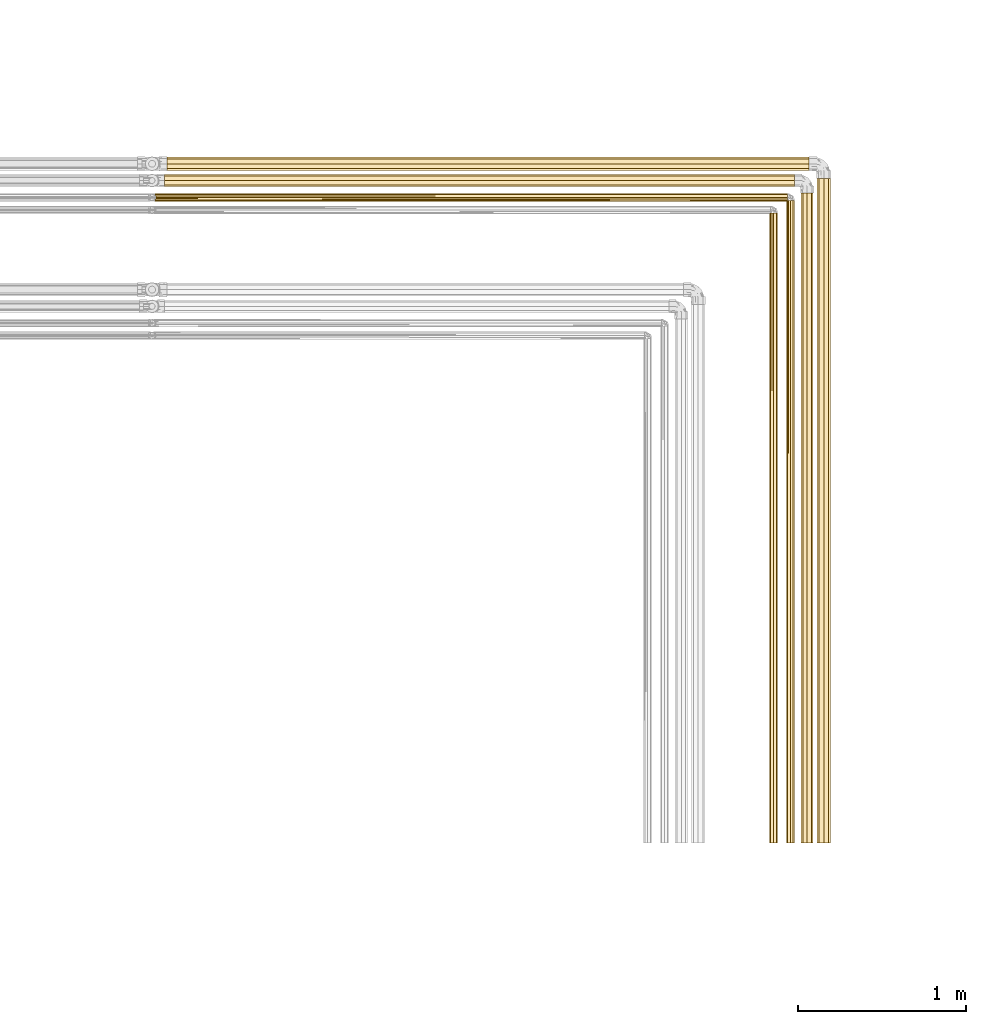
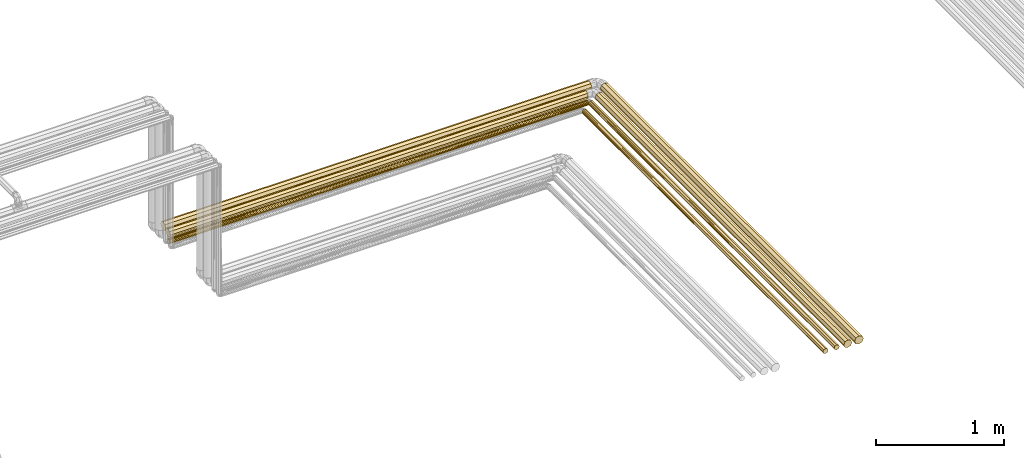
# One storey, part 108 of 652: 7 coverings.
"""IFC2X3 building model written with IfcOpenShell, lengths in millimetres."""

from ifc_helpers import new_model, entity, si_unit, converted_unit, direction, frame, origin, place, context, subcontext, project, spatial, faceted_brep, material, type_object, element, save


model = new_model("IFC2X3")

# Units and contexts
model_context = context("Model", 3, precision=0.01, world=frame((0.0, 0.0, 308426.39999999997)), true_north=direction((6.123233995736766e-17, 1.0)))
plan_context = context("Plan", 3, precision=0.01, world=frame((0.0, 0.0, 308426.39999999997)), true_north=direction((6.123233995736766e-17, 1.0)))
body_context = subcontext(model_context, "Body", "Model", "MODEL_VIEW")
ifc_project = project(units=[si_unit("LENGTHUNIT", "METRE", prefix="MILLI"), si_unit("AREAUNIT", "SQUARE_METRE"), si_unit("VOLUMEUNIT", "CUBIC_METRE"), converted_unit("PLANEANGLEUNIT", "DEGREE", entity("IfcPlaneAngleMeasure", 0.017453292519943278), si_unit("PLANEANGLEUNIT", "RADIAN"), dimensions=[0, 0, 0, 0, 0, 0, 0])], contexts=[model_context, plan_context])

# Site, building, storey
site_placement = place(None, origin())
site = spatial("IfcSite", under=ifc_project, at=site_placement, Name="Default", CompositionType="ELEMENT")
building_placement = place(site_placement, origin())
building = spatial("IfcBuilding", under=site, at=building_placement, CompositionType="ELEMENT")
storey_placement = place(building_placement, frame((0.0, 0.0, 1730.6999999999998)))
storey = spatial("IfcBuildingStorey", under=building, at=storey_placement, Name="EG_Produktion_FFB", CompositionType="ELEMENT", Elevation=1730.6999999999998)

# Coverings
ifc_material = material(Name="Dämmung - Armaflex-Schlauch")
covering_type = type_object("IfcCoveringType", Name="Rohrdämmung außen:Armaflex-Schlauch", PredefinedType="INSULATION")
covering_1_placement = place(storey_placement, frame((73366.94222776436, 37576.577886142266, 2526.8951524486)))
element("IfcCovering", 1, at=covering_1_placement, inside=storey, type_object=covering_type, material=ifc_material, Name="Rohrdämmung außen:Armaflex-Schlauch", ObjectType="Rohrdämmung außen:Armaflex-Schlauch", PredefinedType="INSULATION", context=body_context, shape_type="Brep", body=[
    faceted_brep([(38.05777223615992, 3874.3363135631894, 1.595272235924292), (33.06890100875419, 3874.3363135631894, 3.6617303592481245), (25.166331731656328, 3874.3363135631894, 6.935081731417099), (18.72061147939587, 3874.3363135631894, 9.604986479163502), (12.274891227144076, 3874.3363135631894, 12.274891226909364), (9.604986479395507, 3874.3363135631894, 18.720611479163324), (6.9350817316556, 3874.3363135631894, 25.166331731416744), (4.265176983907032, 3874.3363135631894, 31.612051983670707), (1.595272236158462, 3874.3363135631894, 38.057772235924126), (3.6617303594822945, 3874.3363135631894, 43.04664346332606), (6.9350817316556, 3874.3363135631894, 50.949212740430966), (9.60498647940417, 3874.3363135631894, 57.39493299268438), (12.274891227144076, 3874.3363135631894, 63.840653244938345), (18.72061147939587, 3874.3363135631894, 66.5105579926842), (25.166331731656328, 3874.3363135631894, 69.18046274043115), (33.06890100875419, 3874.3363135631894, 72.45381411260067), (38.05777223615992, 3874.3363135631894, 74.52027223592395), (44.503492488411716, 3874.3363135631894, 71.85036748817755), (50.949212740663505, 3874.3363135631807, 69.18046274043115), (57.39493299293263, 3874.3363135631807, 66.51055799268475), (63.84065324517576, 3874.3363135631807, 63.840653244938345), (66.51055799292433, 3874.3363135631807, 57.39493299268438), (69.18046274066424, 3874.3363135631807, 50.949212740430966), (72.45381411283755, 3874.3363135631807, 43.04664346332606), (74.52027223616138, 3874.3363135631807, 38.057772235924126), (71.8503674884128, 3874.3363135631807, 31.612051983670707), (69.18046274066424, 3874.3363135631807, 25.166331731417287), (66.51055799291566, 3874.3363135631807, 18.720611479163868), (63.84065324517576, 3874.3363135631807, 12.274891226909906), (57.39493299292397, 3874.3363135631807, 9.604986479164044), (50.949212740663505, 3874.3363135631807, 6.935081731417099), (44.503492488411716, 3874.3363135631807, 4.265176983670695), (38.057772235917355, 0.0, 1.595272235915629), (48.03551469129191, 0.0, 5.728188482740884), (55.938083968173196, 0.0, 9.00153985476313), (63.8406532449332, 0.0, 12.274891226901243), (66.51055799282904, 0.0, 18.720611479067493), (69.1804627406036, 0.0, 25.166331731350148), (71.85036748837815, 0.0, 31.612051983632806), (74.52027223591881, 0.0, 38.05777223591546), (70.38735598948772, 0.0, 48.03551469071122), (67.11400461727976, 0.0, 55.93808396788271), (63.8406532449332, 0.0, 63.840653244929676), (55.93808396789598, 0.0, 67.11400461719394), (48.03551469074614, 0.0, 70.38735598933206), (38.057772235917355, 0.0, 74.5202722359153), (31.612051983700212, 0.0, 71.85036748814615), (25.166331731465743, 0.0, 69.18046274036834), (18.7206114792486, 0.0, 66.51055799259), (12.274891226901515, 0.0, 63.840653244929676), (9.604986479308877, 0.0, 57.394932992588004), (6.935081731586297, 0.0, 50.949212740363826), (4.265176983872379, 0.0, 44.50349248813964), (1.5952722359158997, 0.0, 38.05777223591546), (5.728188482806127, 0.0, 28.080029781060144), (9.001539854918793, 0.0, 20.177460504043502), (12.274891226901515, 0.0, 12.274891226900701), (18.7206114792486, 0.0, 9.604986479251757), (25.16633173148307, 0.0, 6.935081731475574), (31.612051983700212, 0.0, 4.265176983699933), (74.52027223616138, 1686.7498690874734, 38.05777223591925)], [[[0, 1, 2, 3, 4, 5, 6, 7, 8, 9, 10, 11, 12, 13, 14, 15, 16, 17, 18, 19, 20, 21, 22, 23, 24, 25, 26, 27, 28, 29, 30, 31]], [[32, 33, 34, 35, 36, 37, 38, 39, 40, 41, 42, 43, 44, 45, 46, 47, 48, 49, 50, 51, 52, 53, 54, 55, 56, 57, 58, 59]], [[37, 36, 35, 28, 27, 26, 25, 24, 60, 39, 38]], [[33, 32, 0, 31, 30, 29, 28, 35, 34]], [[58, 57, 56, 4, 3, 2, 1, 0, 32, 59]], [[4, 56, 55, 54, 53, 8, 7, 6, 5]], [[51, 50, 49, 12, 11, 10, 9, 8, 53, 52]], [[12, 49, 48, 47, 46, 45, 16, 15, 14, 13]], [[44, 43, 42, 20, 19, 18, 17, 16, 45]], [[20, 42, 41, 40, 39, 60, 24, 23, 22, 21]]]),
])
covering_2_placement = place(storey_placement, frame((69574.08425000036, 41486.94067746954, 2526.895152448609)))
element("IfcCovering", 2, at=covering_2_placement, inside=storey, type_object=covering_type, material=ifc_material, Name="Rohrdämmung außen:Armaflex-Schlauch", ObjectType="Rohrdämmung außen:Armaflex-Schlauch", PredefinedType="INSULATION", context=body_context, shape_type="Brep", body=[
    faceted_brep([(3756.831500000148, 74.52027223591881, 38.057772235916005), (3756.831500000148, 72.38918018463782, 43.20268356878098), (3756.831500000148, 69.18046274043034, 50.949212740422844), (3756.831500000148, 66.51055799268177, 57.39493299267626), (3756.831500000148, 63.8406532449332, 63.84065324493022), (3756.831500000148, 57.394932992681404, 66.51055799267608), (3756.831500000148, 50.94921274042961, 69.18046274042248), (3756.831500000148, 44.50349248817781, 71.85036748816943), (3756.831500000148, 38.057772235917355, 74.52027223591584), (3756.831500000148, 32.91286090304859, 72.38918018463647), (3756.831500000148, 25.166331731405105, 69.18046274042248), (3756.831500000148, 18.72061147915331, 66.51055799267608), (3756.831500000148, 12.274891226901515, 63.84065324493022), (3756.831500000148, 9.604986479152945, 57.39493299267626), (3756.831500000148, 6.935081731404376, 50.949212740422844), (3756.831500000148, 4.265176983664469, 44.50349248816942), (3756.831500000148, 1.5952722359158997, 38.057772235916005), (3756.831500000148, 4.265176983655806, 31.612051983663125), (3756.831500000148, 6.935081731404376, 25.166331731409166), (3756.831500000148, 9.604986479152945, 18.720611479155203), (3756.831500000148, 12.274891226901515, 12.274891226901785), (3756.831500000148, 18.72061147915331, 9.604986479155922), (3756.831500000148, 25.166331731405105, 6.935081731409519), (3756.831500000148, 31.612051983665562, 4.265176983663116), (3756.831500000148, 38.057772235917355, 1.5952722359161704), (3756.831500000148, 43.20268356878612, 3.7263642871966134), (3756.831500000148, 50.94921274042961, 6.935081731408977), (3756.831500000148, 57.394932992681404, 9.604986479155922), (3756.831500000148, 63.8406532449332, 12.274891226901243), (3756.831500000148, 66.51055799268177, 18.720611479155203), (3756.831500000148, 69.18046274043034, 25.166331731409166), (3756.831500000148, 71.85036748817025, 31.61205198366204), (0.0, 57.394932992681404, 9.604986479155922), (0.0, 50.94921274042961, 6.935081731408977), (0.0, 44.50349248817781, 4.265176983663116), (0.0, 38.057772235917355, 1.5952722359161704), (0.0, 27.76794956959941, 5.857456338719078), (0.0, 20.021420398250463, 9.066173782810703), (0.0, 12.274891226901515, 12.274891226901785), (0.0, 9.604986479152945, 18.720611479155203), (0.0, 6.935081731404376, 25.166331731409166), (0.0, 4.265176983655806, 31.612051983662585), (0.0, 1.5952722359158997, 38.057772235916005), (0.0, 5.857456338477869, 48.3475949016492), (0.0, 9.066173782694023, 56.09412407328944), (0.0, 12.274891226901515, 63.84065324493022), (0.0, 18.72061147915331, 66.51055799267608), (0.0, 25.166331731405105, 69.18046274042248), (0.0, 31.612051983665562, 71.85036748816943), (0.0, 38.057772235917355, 74.52027223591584), (0.0, 48.34759490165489, 70.25808813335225), (0.0, 56.094124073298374, 67.04937068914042), (0.0, 63.8406532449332, 63.84065324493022), (0.0, 66.51055799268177, 57.39493299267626), (0.0, 69.18046274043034, 50.949212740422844), (0.0, 71.85036748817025, 44.50349248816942), (0.0, 74.52027223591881, 38.057772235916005), (0.0, 70.25808813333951, 27.767949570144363), (0.0, 67.04937068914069, 20.021420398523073), (0.0, 63.8406532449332, 12.274891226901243)], [[[0, 1, 2, 3, 4, 5, 6, 7, 8, 9, 10, 11, 12, 13, 14, 15, 16, 17, 18, 19, 20, 21, 22, 23, 24, 25, 26, 27, 28, 29, 30, 31]], [[32, 33, 34, 35, 36, 37, 38, 39, 40, 41, 42, 43, 44, 45, 46, 47, 48, 49, 50, 51, 52, 53, 54, 55, 56, 57, 58, 59]], [[40, 39, 38, 20, 19, 18, 17, 16, 42, 41]], [[36, 35, 24, 23, 22, 21, 20, 38, 37]], [[33, 32, 59, 28, 27, 26, 25, 24, 35, 34]], [[28, 59, 58, 57, 56, 0, 31, 30, 29]], [[54, 53, 52, 4, 3, 2, 1, 0, 56, 55]], [[4, 52, 51, 50, 49, 8, 7, 6, 5]], [[47, 46, 45, 12, 11, 10, 9, 8, 49, 48]], [[12, 45, 44, 43, 42, 16, 15, 14, 13]]]),
])
covering_3_placement = place(storey_placement, frame((73463.76722776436, 37576.577886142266, 2523.7201524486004)))
element("IfcCovering", 3, at=covering_3_placement, inside=storey, type_object=covering_type, material=ifc_material, Name="Rohrdämmung außen:Armaflex-Schlauch", ObjectType="Rohrdämmung außen:Armaflex-Schlauch", PredefinedType="INSULATION", context=body_context, shape_type="Brep", body=[
    faceted_brep([(20.211813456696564, 3960.302813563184, 72.16310601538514), (27.21879971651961, 3960.302813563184, 75.06549475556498), (35.70104272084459, 3960.302813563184, 78.5789548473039), (41.23277223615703, 3960.302813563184, 80.87027223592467), (48.23975849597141, 3960.3028135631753, 77.96788349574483), (55.24674475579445, 3960.3028135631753, 75.06549475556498), (62.2537310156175, 3960.3028135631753, 72.16310601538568), (69.26071727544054, 3960.3028135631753, 69.26071727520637), (72.16310601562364, 3960.3028135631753, 62.25373101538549), (75.06549475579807, 3960.3028135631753, 55.24674475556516), (78.57895484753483, 3960.3028135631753, 46.76450175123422), (80.8702722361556, 3960.3028135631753, 41.232772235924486), (77.9678834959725, 3960.3028135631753, 34.22578597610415), (75.06549475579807, 3960.3028135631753, 27.218799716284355), (72.16310601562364, 3960.3028135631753, 20.211813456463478), (69.26071727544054, 3960.3028135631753, 13.204827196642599), (62.2537310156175, 3960.3028135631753, 10.302438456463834), (55.24674475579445, 3960.3028135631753, 7.400049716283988), (48.23975849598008, 3960.302813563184, 4.4976609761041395), (41.23277223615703, 3960.302813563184, 1.595272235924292), (35.70104272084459, 3960.302813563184, 3.8865896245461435), (27.21879971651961, 3960.302813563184, 7.400049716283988), (20.211813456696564, 3960.302813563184, 10.302438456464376), (13.204827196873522, 3960.302813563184, 13.204827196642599), (10.302438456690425, 3960.302813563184, 20.211813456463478), (7.4000497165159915, 3960.302813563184, 27.218799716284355), (4.4976609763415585, 3960.302813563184, 34.22578597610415), (1.595272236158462, 3960.302813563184, 41.232772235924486), (3.886589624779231, 3960.302813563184, 46.76450175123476), (7.4000497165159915, 3960.302813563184, 55.24674475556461), (10.302438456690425, 3960.302813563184, 62.25373101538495), (13.204827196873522, 3960.302813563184, 69.26071727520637), (1.5952722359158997, 0.0, 41.232772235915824), (6.1779070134, 0.0, 30.169313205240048), (9.691367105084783, 0.0, 21.68707020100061), (13.204827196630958, 0.0, 13.204827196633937), (20.211813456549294, 0.0, 10.302438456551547), (27.218799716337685, 0.0, 7.400049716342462), (34.225785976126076, 0.0, 4.4976609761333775), (41.23277223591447, 0.0, 1.595272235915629), (52.29623126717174, 0.0, 6.177907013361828), (60.77847427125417, 0.0, 9.691367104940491), (69.26071727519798, 0.0, 13.204827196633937), (72.16310601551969, 0.0, 20.211813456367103), (75.06549475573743, 0.0, 27.218799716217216), (77.96788349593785, 0.0, 34.22578597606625), (80.87027223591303, 0.0, 41.232772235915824), (76.28763745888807, 0.0, 52.296231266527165), (72.774177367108, 0.0, 60.778474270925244), (69.26071727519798, 0.0, 69.2607172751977), (60.7784742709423, 0.0, 72.77417736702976), (52.29623126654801, 0.0, 76.28763745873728), (41.23277223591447, 0.0, 80.87027223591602), (34.225785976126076, 0.0, 77.96788349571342), (27.218799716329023, 0.0, 75.06549475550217), (20.211813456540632, 0.0, 72.16310601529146), (13.204827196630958, 0.0, 69.2607172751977), (10.302438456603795, 0.0, 62.25373101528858), (7.400049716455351, 0.0, 55.24674475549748), (4.497660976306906, 0.0, 48.23975849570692), (80.8702722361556, 1758.6547588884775, 41.23277223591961)], [[[0, 1, 2, 3, 4, 5, 6, 7, 8, 9, 10, 11, 12, 13, 14, 15, 16, 17, 18, 19, 20, 21, 22, 23, 24, 25, 26, 27, 28, 29, 30, 31]], [[32, 33, 34, 35, 36, 37, 38, 39, 40, 41, 42, 43, 44, 45, 46, 47, 48, 49, 50, 51, 52, 53, 54, 55, 56, 57, 58, 59]], [[44, 43, 42, 15, 14, 13, 12, 11, 60, 46, 45]], [[40, 39, 19, 18, 17, 16, 15, 42, 41]], [[37, 36, 35, 23, 22, 21, 20, 19, 39, 38]], [[23, 35, 34, 33, 32, 27, 26, 25, 24]], [[58, 57, 56, 31, 30, 29, 28, 27, 32, 59]], [[31, 56, 55, 54, 53, 52, 3, 2, 1, 0]], [[51, 50, 49, 7, 6, 5, 4, 3, 52]], [[7, 49, 48, 47, 46, 60, 11, 10, 9, 8]]]),
])
covering_4_placement = place(storey_placement, frame((69588.11775000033, 41583.765677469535, 2523.720152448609)))
element("IfcCovering", 4, at=covering_4_placement, inside=storey, type_object=covering_type, material=ifc_material, Name="Rohrdämmung außen:Armaflex-Schlauch", ObjectType="Rohrdämmung außen:Armaflex-Schlauch", PredefinedType="INSULATION", context=body_context, shape_type="Brep", body=[
    faceted_brep([(0.0, 1.5952722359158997, 41.232772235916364), (0.0, 3.9653084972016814, 46.95454592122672), (0.0, 7.400049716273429, 55.24674475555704), (0.0, 10.302438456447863, 62.25373101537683), (0.0, 13.204827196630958, 69.26071727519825), (0.0, 20.211813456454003, 72.16310601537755), (0.0, 27.218799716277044, 75.06549475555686), (0.0, 34.22578597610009, 77.96788349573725), (0.0, 41.23277223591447, 80.87027223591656), (0.0, 46.95454592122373, 78.50023597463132), (0.0, 55.246744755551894, 75.06549475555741), (0.0, 62.25373101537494, 72.16310601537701), (0.0, 69.26071727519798, 69.26071727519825), (0.0, 72.16310601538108, 62.25373101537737), (0.0, 75.06549475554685, 55.24674475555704), (0.0, 77.96788349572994, 48.23975849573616), (0.0, 80.87027223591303, 41.232772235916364), (0.0, 77.96788349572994, 34.22578597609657), (0.0, 75.0654947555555, 27.21879971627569), (0.0, 72.16310601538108, 20.211813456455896), (0.0, 69.26071727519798, 13.204827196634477), (0.0, 62.25373101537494, 10.302438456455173), (0.0, 55.246744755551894, 7.400049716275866), (0.0, 48.23975849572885, 4.497660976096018), (0.0, 41.23277223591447, 1.5952722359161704), (0.0, 35.5109985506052, 3.9653084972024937), (0.0, 27.218799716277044, 7.400049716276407), (0.0, 20.211813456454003, 10.302438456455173), (0.0, 13.204827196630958, 13.204827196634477), (0.0, 10.302438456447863, 20.211813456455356), (0.0, 7.400049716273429, 27.218799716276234), (0.0, 4.497660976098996, 34.22578597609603), (3828.764500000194, 20.211813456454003, 10.302438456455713), (3828.764500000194, 27.218799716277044, 7.400049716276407), (3828.764500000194, 34.22578597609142, 4.497660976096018), (3828.764500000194, 41.23277223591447, 1.5952722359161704), (3828.764500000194, 52.67631960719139, 6.3353447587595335), (3828.764500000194, 60.968518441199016, 9.770085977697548), (3828.764500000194, 69.26071727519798, 13.204827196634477), (3828.764500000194, 72.16310601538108, 20.211813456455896), (3828.764500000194, 75.0654947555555, 27.21879971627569), (3828.764500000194, 77.96788349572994, 34.22578597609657), (3828.764500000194, 80.87027223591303, 41.232772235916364), (3828.764500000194, 76.13019971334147, 52.6763196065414), (3828.7645000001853, 72.69545849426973, 60.96851844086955), (3828.764500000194, 69.26071727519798, 69.26071727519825), (3828.764500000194, 62.25373101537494, 72.16310601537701), (3828.764500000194, 55.246744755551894, 75.06549475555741), (3828.764500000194, 48.23975849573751, 77.96788349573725), (3828.764500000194, 41.23277223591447, 80.87027223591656), (3828.764500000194, 29.78922486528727, 76.1301997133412), (3828.7645000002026, 21.497026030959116, 72.69545849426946), (3828.764500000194, 13.204827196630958, 69.26071727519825), (3828.764500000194, 10.302438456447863, 62.25373101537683), (3828.764500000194, 7.400049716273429, 55.24674475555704), (3828.7645000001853, 4.497660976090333, 48.23975849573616), (3828.764500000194, 1.5952722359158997, 41.232772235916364), (3828.7645000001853, 6.335344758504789, 29.78922486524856), (3828.7645000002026, 9.770085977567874, 21.4970260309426), (3828.764500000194, 13.204827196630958, 13.204827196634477)], [[[0, 1, 2, 3, 4, 5, 6, 7, 8, 9, 10, 11, 12, 13, 14, 15, 16, 17, 18, 19, 20, 21, 22, 23, 24, 25, 26, 27, 28, 29, 30, 31]], [[32, 33, 34, 35, 36, 37, 38, 39, 40, 41, 42, 43, 44, 45, 46, 47, 48, 49, 50, 51, 52, 53, 54, 55, 56, 57, 58, 59]], [[40, 39, 38, 20, 19, 18, 17, 16, 42, 41]], [[36, 35, 24, 23, 22, 21, 20, 38, 37]], [[33, 32, 59, 28, 27, 26, 25, 24, 35, 34]], [[28, 59, 58, 57, 56, 0, 31, 30, 29]], [[54, 53, 52, 4, 3, 2, 1, 0, 56, 55]], [[4, 52, 51, 50, 49, 8, 7, 6, 5]], [[47, 46, 45, 12, 11, 10, 9, 8, 49, 48]], [[12, 45, 44, 43, 42, 16, 15, 14, 13]]]),
])
covering_5_placement = place(storey_placement, frame((73279.6422277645, 37576.57788614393, 2539.5951524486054)))
element("IfcCovering", 5, at=covering_5_placement, inside=storey, type_object=covering_type, material=ifc_material, Name="Rohrdämmung außen:Armaflex-Schlauch", ObjectType="Rohrdämmung außen:Armaflex-Schlauch", PredefinedType="INSULATION", context=body_context, shape_type="Brep", body=[
    faceted_brep([(20.423230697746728, 3830.4703135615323, 48.04709335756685), (25.35777223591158, 3830.4703135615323, 49.12027223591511), (30.667179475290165, 3830.4703135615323, 46.921043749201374), (33.759084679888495, 3830.4703135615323, 45.640334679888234), (37.95974090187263, 3830.4703135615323, 43.90036590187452), (42.160397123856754, 3830.4703135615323, 42.16039712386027), (43.90036590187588, 3830.4703135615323, 37.95974090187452), (45.640334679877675, 3830.4703135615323, 33.759084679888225), (47.38030345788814, 3830.4703135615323, 29.558428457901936), (49.12027223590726, 3830.4703135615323, 25.3577722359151), (47.38030345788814, 3830.4703135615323, 21.157116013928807), (45.640334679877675, 3830.4703135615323, 16.956459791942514), (43.90036590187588, 3830.4703135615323, 12.755803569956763), (42.160397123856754, 3830.4703135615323, 8.555147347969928), (37.95974090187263, 3830.4703135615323, 6.815178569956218), (33.759084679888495, 3830.4703135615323, 5.075209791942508), (29.558428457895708, 3830.4703135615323, 3.3352410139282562), (25.35777223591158, 3830.4703135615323, 1.5952722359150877), (20.423230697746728, 3830.4703135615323, 2.668451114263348), (15.488689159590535, 3830.4703135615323, 3.741629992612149), (11.4481056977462, 3830.4703135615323, 6.76437948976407), (7.407522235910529, 3830.4703135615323, 9.787128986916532), (7.407522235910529, 3830.4703135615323, 40.92841548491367), (11.4481056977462, 3830.4703135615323, 43.951164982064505), (15.488689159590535, 3830.4703135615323, 46.97391447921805), (1.5952722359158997, 0.0, 25.357772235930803), (3.3352410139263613, 0.0, 21.157116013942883), (5.07520979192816, 0.0, 16.956459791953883), (6.815178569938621, 0.0, 12.755803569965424), (8.55514734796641, 0.0, 8.55514734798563), (12.755803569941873, 0.0, 6.815178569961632), (16.956459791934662, 0.0, 5.075209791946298), (21.157116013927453, 0.0, 3.335241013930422), (25.35777223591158, 0.0, 1.5952722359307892), (30.667179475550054, 0.0, 3.7945007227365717), (35.976586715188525, 0.0, 5.993729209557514), (42.160397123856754, 0.0, 8.55514734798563), (43.90036590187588, 0.0, 12.755803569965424), (45.640334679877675, 0.0, 16.956459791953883), (47.3803034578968, 0.0, 21.157116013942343), (49.12027223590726, 0.0, 25.357772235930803), (46.92104374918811, 0.0, 30.66717947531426), (44.72181526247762, 0.0, 35.97658671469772), (42.160397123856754, 0.0, 42.160397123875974), (37.95974090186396, 0.0, 43.90036590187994), (33.759084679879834, 0.0, 45.64033467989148), (29.55842845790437, 0.0, 47.380303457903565), (25.35777223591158, 0.0, 49.12027223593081), (20.048364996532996, 0.0, 46.921043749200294), (16.956459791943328, 0.0, 45.64033467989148), (12.755803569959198, 0.0, 43.90036590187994), (8.55514734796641, 0.0, 42.160397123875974), (6.81517856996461, 0.0, 37.95974090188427), (5.075209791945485, 0.0, 33.759084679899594), (3.3352410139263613, 0.0, 29.55842845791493), (2.34548891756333, 3825.4082802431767, 21.20275131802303), (5.251613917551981, 3828.314405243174, 13.417429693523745), (3.095705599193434, 3826.158496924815, 17.04773040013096), (1.5952722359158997, 3824.658063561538, 25.3577722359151), (2.345488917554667, 3825.4082802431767, 29.51279315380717), (3.095705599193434, 3826.158496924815, 33.66781407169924), (5.251613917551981, 3828.314405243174, 37.29811477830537)], [[[0, 1, 2, 3, 4, 5, 6, 7, 8, 9, 10, 11, 12, 13, 14, 15, 16, 17, 18, 19, 20, 21, 22, 23, 24]], [[25, 26, 27, 28, 29, 30, 31, 32, 33, 34, 35, 36, 37, 38, 39, 40, 41, 42, 43, 44, 45, 46, 47, 48, 49, 50, 51, 52, 53, 54]], [[38, 37, 36, 13, 12, 11, 10, 9, 40, 39]], [[36, 35, 34, 33, 17, 16, 15, 14, 13]], [[20, 30, 29]], [[33, 32, 17]], [[31, 19, 18]], [[31, 30, 19]], [[25, 55, 26]], [[21, 28, 56]], [[57, 27, 26]], [[18, 32, 31]], [[27, 57, 56]], [[19, 30, 20]], [[55, 57, 26]], [[17, 32, 18]], [[29, 21, 20]], [[58, 55, 25]], [[28, 21, 29]], [[28, 27, 56]], [[25, 59, 58]], [[0, 49, 48, 47]], [[59, 25, 54]], [[60, 53, 61]], [[23, 51, 50]], [[51, 23, 22]], [[49, 0, 24]], [[22, 52, 51]], [[53, 60, 54]], [[22, 61, 52]], [[50, 24, 23]], [[50, 49, 24]], [[54, 60, 59]], [[47, 1, 0]], [[61, 53, 52]], [[40, 9, 8, 7, 6, 5, 43, 42, 41]], [[4, 3, 2, 1, 47, 46, 45, 44, 43, 5]], [[59, 60, 61, 22, 21, 56, 57, 55, 58]]]),
])
covering_6_placement = place(storey_placement, frame((69516.35497776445, 41399.64067746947, 2539.5951524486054)))
element("IfcCovering", 6, at=covering_6_placement, inside=storey, type_object=covering_type, material=ifc_material, Name="Rohrdämmung außen:Armaflex-Schlauch", ObjectType="Rohrdämmung außen:Armaflex-Schlauch", PredefinedType="INSULATION", context=body_context, shape_type="Brep", body=[
    faceted_brep([(3770.694772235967, 15.488689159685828, 3.741629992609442), (3770.694772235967, 20.42323069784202, 2.6684511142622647), (3770.694772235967, 25.35777223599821, 1.5952722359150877), (3770.694772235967, 30.753630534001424, 3.8303099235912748), (3770.694772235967, 33.75908467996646, 5.075209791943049), (3770.694772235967, 37.95974090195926, 6.8151785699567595), (3770.694772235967, 42.16039712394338, 8.555147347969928), (3770.694772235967, 43.90036590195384, 12.755803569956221), (3770.694772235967, 45.640334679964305, 16.956459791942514), (3770.694772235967, 47.38030345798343, 21.157116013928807), (3770.694772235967, 49.12027223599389, 25.3577722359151), (3770.694772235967, 47.38030345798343, 29.558428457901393), (3770.694772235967, 45.640334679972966, 33.759084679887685), (3770.694772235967, 43.90036590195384, 37.95974090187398), (3770.694772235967, 42.16039712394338, 42.16039712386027), (3770.694772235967, 37.95974090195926, 43.90036590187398), (3770.694772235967, 33.75908467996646, 45.640334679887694), (3770.694772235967, 29.558428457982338, 47.380303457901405), (3770.694772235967, 25.35777223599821, 49.12027223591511), (3770.694772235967, 20.42323069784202, 48.04709335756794), (3770.694772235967, 15.488689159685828, 46.97391447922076), (3770.694772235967, 11.448105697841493, 43.951164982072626), (3770.694772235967, 7.407522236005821, 40.9284154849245), (3770.694772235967, 7.407522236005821, 9.787128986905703), (3770.694772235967, 11.448105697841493, 6.764379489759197), (1.5952722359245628, 40.928415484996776, 43.308022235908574), (1.5952722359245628, 43.951164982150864, 39.26743877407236), (1.5952722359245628, 46.97391447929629, 35.226855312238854), (1.5952722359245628, 48.04709335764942, 30.292313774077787), (1.5952722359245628, 49.12027223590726, 25.357772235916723), (1.5952722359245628, 46.88523454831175, 19.96191393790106), (1.5952722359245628, 44.650196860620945, 14.566055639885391), (1.5952722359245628, 42.160397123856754, 8.555147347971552), (1.5952722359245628, 37.95974090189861, 6.815178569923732), (1.5952722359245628, 33.759084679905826, 5.075209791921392), (1.5952722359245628, 29.55842845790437, 3.3352410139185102), (1.5952722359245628, 25.35777223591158, 1.595272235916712), (1.5952722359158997, 19.96191393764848, 3.8303099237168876), (1.5952722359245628, 16.95645979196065, 5.075209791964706), (1.5952722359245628, 12.755803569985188, 6.8151785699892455), (1.5952722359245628, 8.55514734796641, 8.555147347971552), (1.5952722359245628, 6.815178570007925, 12.755803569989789), (1.5952722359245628, 5.0752097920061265, 16.956459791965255), (1.5952722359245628, 3.335241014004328, 21.15711601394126), (1.5952722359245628, 1.5952722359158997, 25.357772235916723), (1.5952722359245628, 2.668451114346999, 30.29231377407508), (1.5952722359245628, 3.741629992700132, 35.22685531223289), (1.5952722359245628, 6.764379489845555, 39.26743877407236), (1.5952722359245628, 9.787128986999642, 43.30802223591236), (3765.6327389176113, 2.3454889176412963, 21.2027513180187), (3764.8825222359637, 1.595272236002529, 25.3577722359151), (3766.38295559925, 3.0957055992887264, 17.047730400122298), (3768.5388639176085, 5.251613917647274, 13.417429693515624), (3.751180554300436, 37.298114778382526, 45.46393055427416), (5.907088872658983, 33.667814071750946, 47.61983887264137), (6.6573055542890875, 29.512793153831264, 48.37005555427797), (7.407522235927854, 25.35777223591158, 49.12027223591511), (3.75118055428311, 13.417429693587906, 45.46393055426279), (5.907088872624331, 17.047730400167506, 47.619838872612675), (6.348267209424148, 19.491164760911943, 48.06101720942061), (3765.6327389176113, 2.3454889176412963, 29.5127931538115), (3766.38295559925, 3.0957055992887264, 33.6678140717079), (3768.5388639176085, 5.251613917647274, 37.2981147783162)], [[[0, 1, 2, 3, 4, 5, 6, 7, 8, 9, 10, 11, 12, 13, 14, 15, 16, 17, 18, 19, 20, 21, 22, 23, 24]], [[25, 26, 27, 28, 29, 30, 31, 32, 33, 34, 35, 36, 37, 38, 39, 40, 41, 42, 43, 44, 45, 46, 47, 48]], [[40, 24, 23]], [[44, 49, 50]], [[49, 44, 43]], [[51, 42, 52]], [[37, 0, 39, 38]], [[24, 40, 39]], [[0, 37, 1]], [[23, 52, 41]], [[43, 51, 49]], [[36, 1, 37]], [[42, 51, 43]], [[39, 0, 24]], [[23, 41, 40]], [[36, 2, 1]], [[52, 42, 41]], [[29, 10, 9, 8, 7, 6, 32, 31, 30]], [[5, 4, 3, 2, 36, 35, 34, 33, 32, 6]], [[29, 11, 10]], [[15, 25, 53]], [[14, 26, 25]], [[28, 12, 11]], [[13, 27, 26]], [[14, 25, 15]], [[53, 54, 16]], [[55, 56, 18]], [[28, 27, 12]], [[53, 16, 15]], [[26, 14, 13]], [[17, 54, 55]], [[13, 12, 27]], [[11, 29, 28]], [[16, 54, 17]], [[55, 18, 17]], [[57, 48, 21]], [[58, 19, 56, 59]], [[19, 58, 20]], [[56, 19, 18]], [[57, 21, 20]], [[44, 50, 60]], [[45, 61, 46]], [[20, 58, 57]], [[62, 22, 47]], [[60, 61, 45]], [[46, 61, 62]], [[48, 22, 21]], [[46, 62, 47]], [[22, 48, 47]], [[44, 60, 45]], [[49, 51, 52, 23, 22, 62, 61, 60, 50]], [[25, 48, 57, 58, 59, 56, 55, 54, 53]]]),
])
covering_7_placement = place(storey_placement, frame((73179.64222776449, 37576.57788614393, 2539.5951524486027)))
element("IfcCovering", 7, at=covering_7_placement, inside=storey, type_object=covering_type, material=ifc_material, Name="Rohrdämmung außen:Armaflex-Schlauch", ObjectType="Rohrdämmung außen:Armaflex-Schlauch", PredefinedType="INSULATION", context=body_context, shape_type="Brep", body=[
    faceted_brep([(20.42323069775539, 3755.4703135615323, 48.04709335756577), (25.35777223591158, 3755.4703135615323, 49.12027223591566), (30.7732129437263, 3755.4703135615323, 46.87712324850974), (33.759084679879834, 3755.4703135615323, 45.640334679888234), (37.95974090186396, 3755.4703135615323, 43.90036590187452), (42.160397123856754, 3755.4703135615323, 42.16039712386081), (43.90036590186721, 3755.4703135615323, 37.95974090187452), (45.64033467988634, 3755.4703135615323, 33.759084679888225), (47.3803034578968, 3755.4703135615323, 29.558428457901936), (49.12027223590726, 3755.4703135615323, 25.35777223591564), (47.3803034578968, 3755.4703135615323, 21.157116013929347), (45.64033467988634, 3755.4703135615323, 16.956459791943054), (43.90036590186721, 3755.4703135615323, 12.755803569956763), (42.160397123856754, 3755.4703135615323, 8.55514734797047), (37.95974090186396, 3755.4703135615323, 6.8151785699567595), (33.759084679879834, 3755.4703135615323, 5.075209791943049), (29.558428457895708, 3755.4703135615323, 3.335241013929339), (25.35777223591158, 3755.4703135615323, 1.595272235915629), (20.423230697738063, 3755.4703135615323, 2.668451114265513), (15.488689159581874, 3755.4703135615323, 3.7416299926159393), (11.4481056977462, 3755.4703135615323, 6.7643794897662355), (7.407522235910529, 3755.4703135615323, 9.787128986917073), (7.407522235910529, 3755.4703135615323, 40.92841548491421), (11.4481056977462, 3755.4703135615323, 43.951164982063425), (15.488689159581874, 3755.4703135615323, 46.973914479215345), (1.5952722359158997, 0.0, 25.357772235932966), (3.3352410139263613, 0.0, 21.15711601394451), (5.075209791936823, 0.0, 16.95645979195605), (6.815178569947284, 0.0, 12.755803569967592), (8.55514734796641, 0.0, 8.555147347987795), (12.755803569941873, 0.0, 6.8151785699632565), (16.956459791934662, 0.0, 5.075209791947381), (21.15711601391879, 0.0, 3.3352410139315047), (25.35777223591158, 0.0, 1.595272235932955), (30.77321294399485, 0.0, 3.83842122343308), (36.18865365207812, 0.0, 6.08157021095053), (42.160397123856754, 0.0, 8.555147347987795), (43.90036590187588, 0.0, 12.755803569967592), (45.64033467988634, 0.0, 16.95645979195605), (47.3803034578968, 0.0, 21.15711601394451), (49.12027223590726, 0.0, 25.357772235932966), (46.87712324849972, 0.0, 30.773212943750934), (44.633974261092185, 0.0, 36.188653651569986), (42.160397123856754, 0.0, 42.16039712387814), (37.95974090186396, 0.0, 43.900365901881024), (33.759084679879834, 0.0, 45.64033467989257), (29.558428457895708, 0.0, 47.38030345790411), (25.35777223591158, 0.0, 49.12027223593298), (19.9423315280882, 0.0, 46.8771232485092), (16.956459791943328, 0.0, 45.64033467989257), (12.755803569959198, 0.0, 43.900365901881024), (8.55514734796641, 0.0, 42.16039712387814), (6.815178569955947, 0.0, 37.95974090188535), (5.075209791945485, 0.0, 33.75908467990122), (3.3352410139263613, 0.0, 29.558428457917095), (2.345488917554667, 3750.4082802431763, 21.202751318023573), (5.251613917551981, 3753.3144052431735, 13.417429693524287), (3.095705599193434, 3751.158496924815, 17.047730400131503), (1.5952722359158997, 3749.6580635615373, 25.35777223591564), (2.345488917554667, 3750.4082802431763, 29.51279315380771), (3.095705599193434, 3751.158496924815, 33.66781407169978), (5.251613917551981, 3753.3144052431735, 37.29811477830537)], [[[0, 1, 2, 3, 4, 5, 6, 7, 8, 9, 10, 11, 12, 13, 14, 15, 16, 17, 18, 19, 20, 21, 22, 23, 24]], [[25, 26, 27, 28, 29, 30, 31, 32, 33, 34, 35, 36, 37, 38, 39, 40, 41, 42, 43, 44, 45, 46, 47, 48, 49, 50, 51, 52, 53, 54]], [[38, 37, 36, 13, 12, 11, 10, 9, 40, 39]], [[36, 35, 34, 33, 17, 16, 15, 14, 13]], [[20, 30, 29]], [[33, 32, 17]], [[31, 19, 18]], [[31, 30, 19]], [[25, 55, 26]], [[21, 28, 56]], [[57, 27, 26]], [[18, 32, 31]], [[27, 57, 56]], [[19, 30, 20]], [[55, 57, 26]], [[17, 32, 18]], [[29, 21, 20]], [[58, 55, 25]], [[28, 21, 29]], [[28, 27, 56]], [[25, 59, 58]], [[48, 24, 50, 49]], [[59, 25, 54]], [[60, 53, 61]], [[23, 51, 50]], [[51, 23, 22]], [[24, 48, 0]], [[22, 52, 51]], [[53, 60, 54]], [[47, 0, 48]], [[22, 61, 52]], [[50, 24, 23]], [[54, 60, 59]], [[47, 1, 0]], [[61, 53, 52]], [[40, 9, 8, 7, 6, 5, 43, 42, 41]], [[4, 3, 2, 1, 47, 46, 45, 44, 43, 5]], [[59, 60, 61, 22, 21, 56, 57, 55, 58]]]),
])

save(model, "model.ifc")
